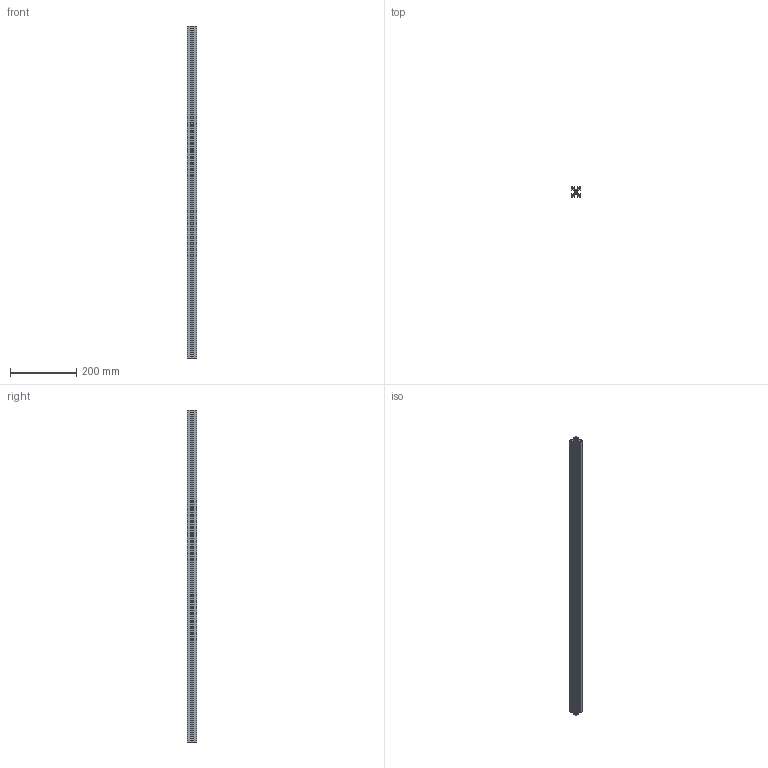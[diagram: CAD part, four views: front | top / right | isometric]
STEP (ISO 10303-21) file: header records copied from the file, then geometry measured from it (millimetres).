
FILE_DESCRIPTION (( 'STEP AP203' ), '1' );
FILE_NAME ('30X30 PROFÝL.STEP', '2015-10-30T06:13:17', ( '' ), ( '' ), 'SwSTEP 2.0', 'SolidWorks 2015', '' );
FILE_SCHEMA (( 'CONFIG_CONTROL_DESIGN' ));
Length unit declared in the file: millimetre
Products named in the file (1): 30X30 PROFÝL
Bounding box: 30 x 30 x 1000 mm (x, y, z)
Volume: 315961.8 mm3; surface area: 349969.5 mm2
Topology: 1 solids, 1 shells, 363 faces, 1083 edges, 722 vertices
Faces by surface type: cylinder 201, plane 162
Entity records: 12436 total; most frequent: DIRECTION 2213, CARTESIAN_POINT 2169, ORIENTED_EDGE 2166, EDGE_CURVE 1083, AXIS2_PLACEMENT_3D 766, VERTEX_POINT 722, VECTOR 681, LINE 681
